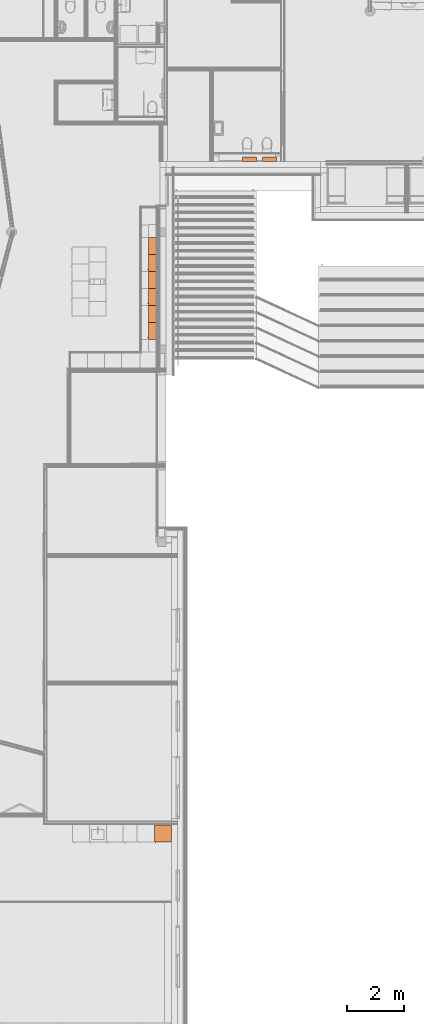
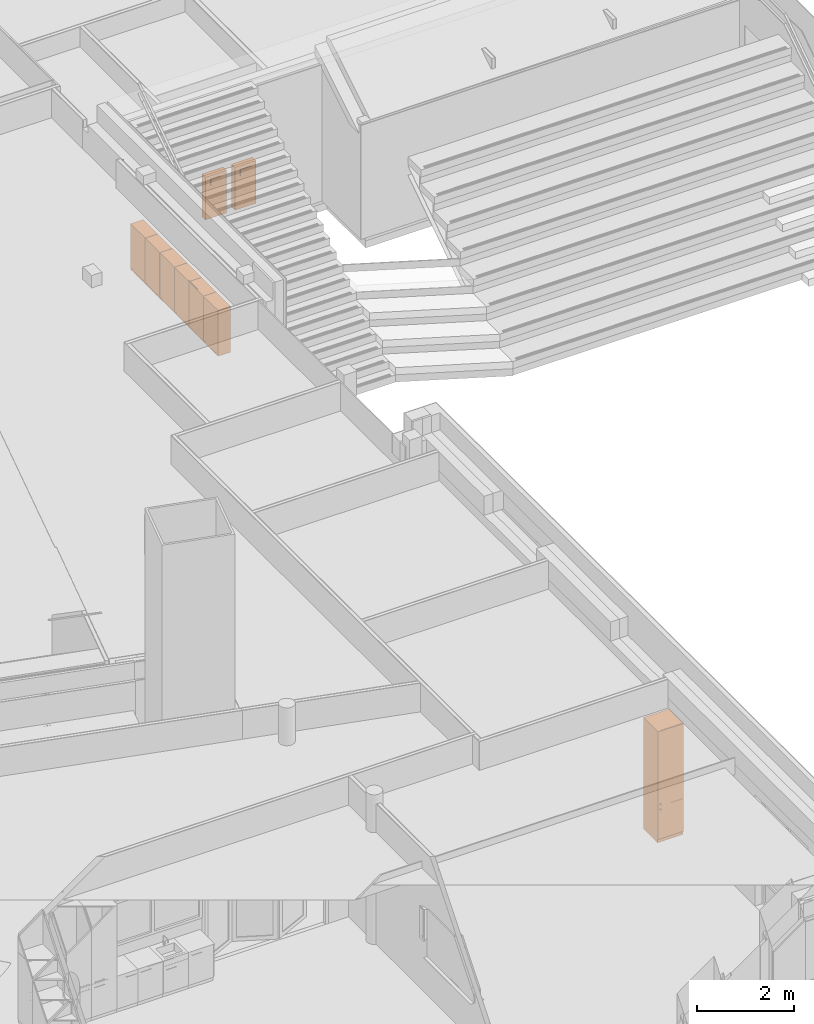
# One storey, part 107 of 167: 9 proxies.
"""IFC2X3 building model written with IfcOpenShell, lengths in millimetres."""

from ifc_helpers import new_model, entity, si_unit, converted_unit, derived_unit, money_unit, direction, frame, origin_with_axes, place, context, subcontext, project, spatial, open_shell, faceted_brep, surface_model, source, transform, mapped, type_object, type_shapes, element, save


model = new_model("IFC2X3")

# Units and contexts
model_context = context("Model", 3, precision=0.01, world=origin_with_axes(), true_north=direction((0.0, 1.0)))
plan_context = context("Plan", 3, precision=0.01, world=origin_with_axes(), true_north=direction((0.0, 1.0)))
body_context = subcontext(model_context, "Body", "Model", "MODEL_VIEW")
ifc_project = project(units=[si_unit("LENGTHUNIT", "METRE", prefix="MILLI"), si_unit("AREAUNIT", "SQUARE_METRE"), si_unit("VOLUMEUNIT", "CUBIC_METRE"), converted_unit("PLANEANGLEUNIT", "DEGREE", entity("IfcPlaneAngleMeasure", 0.0174532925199), si_unit("PLANEANGLEUNIT", "RADIAN"), dimensions=[0, 0, 0, 0, 0, 0, 0]), si_unit("SOLIDANGLEUNIT", "STERADIAN"), money_unit("EUR"), converted_unit("TIMEUNIT", "Year", entity("IfcTimeMeasure", 31556926.0), si_unit("TIMEUNIT", "SECOND"), dimensions=[0, 0, 1, 0, 0, 0, 0]), si_unit("MASSUNIT", "GRAM", prefix="KILO"), si_unit("THERMODYNAMICTEMPERATUREUNIT", "DEGREE_CELSIUS"), si_unit("LUMINOUSINTENSITYUNIT", "LUMEN"), si_unit("ENERGYUNIT", "JOULE", prefix="MEGA"), derived_unit("THERMALCONDUCTANCEUNIT", [(si_unit("POWERUNIT", "WATT"), 1), (si_unit("LENGTHUNIT", "METRE"), -1), (si_unit("THERMODYNAMICTEMPERATUREUNIT", "KELVIN"), -1)]), derived_unit("SPECIFICHEATCAPACITYUNIT", [(si_unit("ENERGYUNIT", "JOULE"), 1), (si_unit("MASSUNIT", "GRAM", prefix="KILO"), -1), (si_unit("THERMODYNAMICTEMPERATUREUNIT", "KELVIN"), -1)]), derived_unit("MASSDENSITYUNIT", [(si_unit("MASSUNIT", "GRAM", prefix="KILO"), 1), (si_unit("VOLUMEUNIT", "CUBIC_METRE"), -1)])], contexts=[model_context, plan_context])

# Site, building, storey
site_placement = place(None, origin_with_axes())
site = spatial("IfcSite", under=ifc_project, at=site_placement, Name="Site", CompositionType="ELEMENT")
building_placement = place(site_placement, origin_with_axes())
building = spatial("IfcBuilding", under=site, at=building_placement, Name="Naam gebouw", CompositionType="ELEMENT")
storey_placement = place(building_placement, origin_with_axes())
storey = spatial("IfcBuildingStorey", under=building, at=storey_placement, Name="Begane grond", CompositionType="ELEMENT", Elevation=0.0)

# Proxies
building_element_proxy_type_1 = type_object("IfcBuildingElementProxyType", Name="Kast hoog 1D 24", PredefinedType="NOTDEFINED")
shared_shape_1 = source(origin_with_axes(), body_context, "Body", "Brep", [
    faceted_brep([(-20.0, 20.0, 910.0), (-20.0, 20.0, 930.0), (-580.0, 20.0, 930.0), (-580.0, 20.0, 910.0), (-20.0, 580.0, 910.0), (-20.0, 580.0, 930.0), (-580.0, 580.0, 930.0), (-580.0, 580.0, 910.0)], [[[0, 1, 2, 3]], [[4, 5, 1, 0]], [[1, 5, 6, 2]], [[3, 2, 6, 7]], [[0, 3, 7, 4]], [[7, 6, 5, 4]]]),
    faceted_brep([(0.0, 20.0, 0.0), (0.0, 20.0, 90.0), (-600.0, 20.0, 90.0), (-600.0, 20.0, 0.0), (0.0, 600.0, 0.0), (0.0, 600.0, 90.0), (-600.0, 600.0, 90.0), (-600.0, 600.0, 0.0)], [[[0, 1, 2, 3]], [[4, 5, 1, 0]], [[1, 5, 6, 2]], [[3, 2, 6, 7]], [[0, 3, 7, 4]], [[7, 6, 5, 4]]]),
    faceted_brep([(0.0, 20.0, 2780.0), (0.0, 20.0, 2800.0), (-20.0, 20.0, 2800.0), (-20.0, 20.0, 2780.0), (0.0, 600.0, 2780.0), (0.0, 600.0, 2800.0), (-20.0, 600.0, 2800.0), (-580.0, 600.0, 2800.0), (-600.0, 600.0, 2800.0), (-600.0, 20.0, 2800.0), (-580.0, 20.0, 2800.0), (-580.0, 20.0, 2780.0), (-600.0, 20.0, 2780.0), (-600.0, 600.0, 2780.0), (-580.0, 600.0, 2780.0), (-20.0, 600.0, 2780.0)], [[[0, 1, 2, 3]], [[4, 5, 1, 0]], [[1, 5, 6, 7, 8, 9, 10, 2]], [[3, 2, 10, 11]], [[0, 3, 11, 12, 13, 14, 15, 4]], [[15, 6, 5, 4]], [[14, 7, 6, 15]], [[13, 8, 7, 14]], [[12, 9, 8, 13]], [[11, 10, 9, 12]]]),
    faceted_brep([(0.0, 20.0, 90.0), (0.0, 20.0, 110.0), (-20.0, 20.0, 110.0), (-20.0, 20.0, 90.0), (0.0, 600.0, 90.0), (0.0, 600.0, 110.0), (-20.0, 600.0, 110.0), (-580.0, 600.0, 110.0), (-600.0, 600.0, 110.0), (-600.0, 20.0, 110.0), (-580.0, 20.0, 110.0), (-580.0, 20.0, 90.0), (-600.0, 20.0, 90.0), (-600.0, 600.0, 90.0), (-580.0, 600.0, 90.0), (-20.0, 600.0, 90.0)], [[[0, 1, 2, 3]], [[4, 5, 1, 0]], [[1, 5, 6, 7, 8, 9, 10, 2]], [[3, 2, 10, 11]], [[0, 3, 11, 12, 13, 14, 15, 4]], [[15, 6, 5, 4]], [[14, 7, 6, 15]], [[13, 8, 7, 14]], [[12, 9, 8, 13]], [[11, 10, 9, 12]]]),
    faceted_brep([(0.0, 20.0, 110.0), (0.0, 20.0, 2780.0), (-20.0, 20.0, 2780.0), (-20.0, 20.0, 110.0), (0.0, 600.0, 110.0), (0.0, 600.0, 2780.0), (-600.0, 600.0, 2780.0), (-600.0, 20.0, 2780.0), (-580.0, 20.0, 2780.0), (-580.0, 580.0, 2780.0), (-20.0, 580.0, 2780.0), (-20.0, 580.0, 110.0), (-580.0, 580.0, 110.0), (-580.0, 20.0, 110.0), (-600.0, 20.0, 110.0), (-600.0, 600.0, 110.0)], [[[0, 1, 2, 3]], [[4, 5, 1, 0]], [[1, 5, 6, 7, 8, 9, 10, 2]], [[3, 2, 10, 11]], [[0, 3, 11, 12, 13, 14, 15, 4]], [[15, 6, 5, 4]], [[14, 7, 6, 15]], [[13, 8, 7, 14]], [[12, 9, 8, 13]], [[11, 10, 9, 12]]]),
    faceted_brep([(-580.0, 20.0, 353.333333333), (-580.0, 20.0, 373.333333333), (-580.0, 580.0, 373.333333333), (-580.0, 580.0, 353.333333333), (-20.0, 20.0, 353.333333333), (-20.0, 20.0, 373.333333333), (-20.0, 580.0, 373.333333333), (-20.0, 580.0, 353.333333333)], [[[0, 1, 2, 3]], [[4, 5, 1, 0]], [[1, 5, 6, 2]], [[3, 2, 6, 7]], [[0, 3, 7, 4]], [[7, 6, 5, 4]]]),
    faceted_brep([(-580.0, 20.0, 636.666666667), (-580.0, 20.0, 656.666666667), (-580.0, 580.0, 656.666666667), (-580.0, 580.0, 636.666666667), (-20.0, 20.0, 636.666666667), (-20.0, 20.0, 656.666666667), (-20.0, 580.0, 656.666666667), (-20.0, 580.0, 636.666666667)], [[[0, 1, 2, 3]], [[4, 5, 1, 0]], [[1, 5, 6, 2]], [[3, 2, 6, 7]], [[0, 3, 7, 4]], [[7, 6, 5, 4]]]),
    faceted_brep([(-1.5, 20.0, 91.5), (-1.5, 0.0, 91.5), (-598.5, 0.0, 91.5), (-598.5, 20.0, 91.5), (-1.5, 20.0, 918.5), (-1.5, 0.0, 918.5), (-598.5, 0.0, 918.5), (-598.5, 20.0, 918.5)], [[[0, 1, 2, 3]], [[4, 5, 1, 0]], [[1, 5, 6, 2]], [[3, 2, 6, 7]], [[0, 3, 7, 4]], [[7, 6, 5, 4]]]),
    faceted_brep([(-560.091109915, 0.0, 838.394171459), (-560.5, 0.0, 841.5), (-560.091109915, 0.0, 844.605828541), (-558.892304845, 0.0, 847.5), (-556.985281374, 0.0, 849.985281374), (-554.5, 0.0, 851.892304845), (-551.605828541, 0.0, 853.091109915), (-548.5, 0.0, 853.5), (-545.394171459, 0.0, 853.091109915), (-542.5, 0.0, 851.892304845), (-540.014718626, 0.0, 849.985281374), (-538.107695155, 0.0, 847.5), (-536.908890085, 0.0, 844.605828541), (-536.5, 0.0, 841.5), (-536.908890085, 0.0, 838.394171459), (-538.107695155, 0.0, 835.5), (-540.014718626, 0.0, 833.014718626), (-542.5, 0.0, 831.107695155), (-545.394171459, 0.0, 829.908890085), (-548.5, 0.0, 829.5), (-551.605828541, 0.0, 829.908890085), (-554.5, 0.0, 831.107695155), (-556.985281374, 0.0, 833.014718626), (-558.892304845, 0.0, 835.5), (-560.091109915, -25.0, 838.394171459), (-560.5, -25.0, 841.5), (-560.091109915, -25.0, 844.605828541), (-558.892304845, -25.0, 847.5), (-556.985281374, -25.0, 849.985281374), (-554.5, -25.0, 851.892304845), (-551.605828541, -25.0, 853.091109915), (-548.5, -25.0, 853.5), (-545.394171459, -25.0, 853.091109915), (-542.5, -25.0, 851.892304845), (-540.014718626, -25.0, 849.985281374), (-538.107695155, -25.0, 847.5), (-536.908890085, -25.0, 844.605828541), (-536.5, -25.0, 841.5), (-536.908890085, -25.0, 838.394171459), (-538.107695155, -25.0, 835.5), (-540.014718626, -25.0, 833.014718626), (-542.5, -25.0, 831.107695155), (-545.394171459, -25.0, 829.908890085), (-548.5, -25.0, 829.5), (-551.605828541, -25.0, 829.908890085), (-554.5, -25.0, 831.107695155), (-556.985281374, -25.0, 833.014718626), (-558.892304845, -25.0, 835.5)], [[[0, 1, 2, 3, 4, 5, 6, 7, 8, 9, 10, 11, 12, 13, 14, 15, 16, 17, 18, 19, 20, 21, 22, 23]], [[0, 24, 25, 1]], [[1, 25, 26, 2]], [[2, 26, 27, 3]], [[3, 27, 28, 4]], [[4, 28, 29, 5]], [[5, 29, 30, 6]], [[6, 30, 31, 7]], [[7, 31, 32, 8]], [[8, 32, 33, 9]], [[9, 33, 34, 10]], [[10, 34, 35, 11]], [[11, 35, 36, 12]], [[12, 36, 37, 13]], [[13, 37, 38, 14]], [[14, 38, 39, 15]], [[15, 39, 40, 16]], [[16, 40, 41, 17]], [[17, 41, 42, 18]], [[18, 42, 43, 19]], [[19, 43, 44, 20]], [[20, 44, 45, 21]], [[21, 45, 46, 22]], [[22, 46, 47, 23]], [[23, 47, 24, 0]], [[24, 47, 46, 45, 44, 43, 42, 41, 40, 39, 38, 37, 36, 35, 34, 33, 32, 31, 30, 29, 28, 27, 26, 25]]]),
    faceted_brep([(-1.5, 20.0, 921.5), (-1.5, 0.0, 921.5), (-598.5, 0.0, 921.5), (-598.5, 20.0, 921.5), (-1.5, 20.0, 2798.5), (-1.5, 0.0, 2798.5), (-598.5, 0.0, 2798.5), (-598.5, 20.0, 2798.5)], [[[0, 1, 2, 3]], [[4, 5, 1, 0]], [[1, 5, 6, 2]], [[3, 2, 6, 7]], [[0, 3, 7, 4]], [[7, 6, 5, 4]]]),
    faceted_brep([(-560.091109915, 0.0, 968.394171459), (-560.5, 0.0, 971.5), (-560.091109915, 0.0, 974.605828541), (-558.892304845, 0.0, 977.5), (-556.985281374, 0.0, 979.985281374), (-554.5, 0.0, 981.892304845), (-551.605828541, 0.0, 983.091109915), (-548.5, 0.0, 983.5), (-545.394171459, 0.0, 983.091109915), (-542.5, 0.0, 981.892304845), (-540.014718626, 0.0, 979.985281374), (-538.107695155, 0.0, 977.5), (-536.908890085, 0.0, 974.605828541), (-536.5, 0.0, 971.5), (-536.908890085, 0.0, 968.394171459), (-538.107695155, 0.0, 965.5), (-540.014718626, 0.0, 963.014718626), (-542.5, 0.0, 961.107695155), (-545.394171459, 0.0, 959.908890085), (-548.5, 0.0, 959.5), (-551.605828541, 0.0, 959.908890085), (-554.5, 0.0, 961.107695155), (-556.985281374, 0.0, 963.014718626), (-558.892304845, 0.0, 965.5), (-560.091109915, -25.0, 968.394171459), (-560.5, -25.0, 971.5), (-560.091109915, -25.0, 974.605828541), (-558.892304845, -25.0, 977.5), (-556.985281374, -25.0, 979.985281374), (-554.5, -25.0, 981.892304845), (-551.605828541, -25.0, 983.091109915), (-548.5, -25.0, 983.5), (-545.394171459, -25.0, 983.091109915), (-542.5, -25.0, 981.892304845), (-540.014718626, -25.0, 979.985281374), (-538.107695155, -25.0, 977.5), (-536.908890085, -25.0, 974.605828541), (-536.5, -25.0, 971.5), (-536.908890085, -25.0, 968.394171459), (-538.107695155, -25.0, 965.5), (-540.014718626, -25.0, 963.014718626), (-542.5, -25.0, 961.107695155), (-545.394171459, -25.0, 959.908890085), (-548.5, -25.0, 959.5), (-551.605828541, -25.0, 959.908890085), (-554.5, -25.0, 961.107695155), (-556.985281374, -25.0, 963.014718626), (-558.892304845, -25.0, 965.5)], [[[0, 1, 2, 3, 4, 5, 6, 7, 8, 9, 10, 11, 12, 13, 14, 15, 16, 17, 18, 19, 20, 21, 22, 23]], [[0, 24, 25, 1]], [[1, 25, 26, 2]], [[2, 26, 27, 3]], [[3, 27, 28, 4]], [[4, 28, 29, 5]], [[5, 29, 30, 6]], [[6, 30, 31, 7]], [[7, 31, 32, 8]], [[8, 32, 33, 9]], [[9, 33, 34, 10]], [[10, 34, 35, 11]], [[11, 35, 36, 12]], [[12, 36, 37, 13]], [[13, 37, 38, 14]], [[14, 38, 39, 15]], [[15, 39, 40, 16]], [[16, 40, 41, 17]], [[17, 41, 42, 18]], [[18, 42, 43, 19]], [[19, 43, 44, 20]], [[20, 44, 45, 21]], [[21, 45, 46, 22]], [[22, 46, 47, 23]], [[23, 47, 24, 0]], [[24, 47, 46, 45, 44, 43, 42, 41, 40, 39, 38, 37, 36, 35, 34, 33, 32, 31, 30, 29, 28, 27, 26, 25]]]),
])
type_shapes(building_element_proxy_type_1, [shared_shape_1])
proxy_placement = place(storey_placement, frame((28986.0, 7273.34783859, 0.0), z_axis=(0.0, 0.0, 1.0), x_axis=(1.0, 0.0, 0.0)))
element("IfcBuildingElementProxy", 1, at=proxy_placement, inside=storey, type_object=building_element_proxy_type_1, Name="__Object-x", context=body_context, shape_type="MappedRepresentation", body=[
    mapped(shared_shape_1, transform((0.0, 0.0, 0.0))),
])
building_element_proxy_type_2 = type_object("IfcBuildingElementProxyType", Name="Inbouwreservoir 24 KM", PredefinedType="NOTDEFINED")
shared_shape_2 = source(origin_with_axes(), body_context, "Body", "SurfaceModel", [
    faceted_brep([(0.0, 0.0, 0.0), (500.0, 0.0, 0.0), (500.0, 0.0, 1070.0), (0.0, 0.0, 1070.0), (0.0, 145.00000711, 0.0), (500.0, 145.00000711, 0.0), (500.0, 145.00000711, 1070.0), (0.0, 145.00000711, 1070.0)], [[[0, 1, 2, 3]], [[0, 4, 5, 1]], [[1, 5, 6, 2]], [[3, 2, 6, 7]], [[4, 0, 3, 7]], [[5, 4, 7, 6]]]),
    surface_model("IfcShellBasedSurfaceModel", [(1.0, 0.0, 0.0), (499.0, 0.0, 0.0), (499.0, 145.00000711, 1070.0), (1.0, 145.00000711, 1070.0)], [open_shell([[[0, 1, 2, 3]]])]),
    surface_model("IfcShellBasedSurfaceModel", [(1.0, 0.0, 1070.0), (499.0, 0.0, 1070.0), (499.0, 145.00000711, 0.0), (1.0, 145.00000711, 0.0)], [open_shell([[[0, 1, 2, 3]]])]),
    faceted_brep([(375.0, -10.0, 820.0), (125.0, -10.0, 820.0), (125.0, 0.0, 820.0), (375.0, 0.0, 820.0), (375.0, -10.0, 980.0), (125.0, -10.0, 980.0), (125.0, 0.0, 980.0), (375.0, 0.0, 980.0)], [[[0, 1, 2, 3]], [[1, 0, 4, 5]], [[2, 1, 5, 6]], [[3, 2, 6, 7]], [[0, 3, 7, 4]], [[5, 4, 7, 6]]]),
    surface_model("IfcShellBasedSurfaceModel", [(325.0, 0.0, 850.0), (175.0, 0.0, 850.0), (175.0, 0.0, 950.0), (325.0, 0.0, 950.0)], [open_shell([[[0, 1, 2, 3]]])]),
    surface_model("IfcShellBasedSurfaceModel", [(175.0, -10.0, 820.0), (325.0, -10.0, 820.0), (325.0, -10.0, 855.0), (175.0, -10.0, 855.0)], [open_shell([[[0, 1, 2, 3]]])]),
    surface_model("IfcShellBasedSurfaceModel", [(175.0, -10.0, 855.0), (265.0, -10.0, 855.0), (265.0, -10.0, 945.0), (175.0, -10.0, 945.0)], [open_shell([[[0, 1, 2, 3]]])]),
    surface_model("IfcShellBasedSurfaceModel", [(265.0, -10.0, 855.0), (325.0, -10.0, 855.0), (325.0, -10.0, 945.0), (265.0, -10.0, 945.0)], [open_shell([[[0, 1, 2, 3]]])]),
])
type_shapes(building_element_proxy_type_2, [shared_shape_2])
for number, where, z_axis, x_axis in (
    (2, (31501.6857584, 31300.3129265, 0.0), (0.0, 0.0, 1.0), (0.999999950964, -0.000313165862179, 0.0)),
    (3, (32202.4365325, 31300.1563393, 0.0), (0.0, 0.0, 1.0), (0.999999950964, -0.000313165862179, 0.0)),
):
    element("IfcBuildingElementProxy", number, at=place(storey_placement, frame(where, z_axis=z_axis, x_axis=x_axis)), inside=storey, type_object=building_element_proxy_type_2, Name="__Object-x", context=body_context, shape_type="MappedRepresentation", body=[
        mapped(shared_shape_2, transform((0.0, 0.0, 0.0))),
    ])
building_element_proxy_type_3 = type_object("IfcBuildingElementProxyType", Name="Kast wand 1D 24", PredefinedType="NOTDEFINED")
shared_shape_3 = source(origin_with_axes(), body_context, "Body", "SurfaceModel", [
    faceted_brep([(0.0, 20.0, 2630.0), (20.0, 20.0, 2630.0), (20.0, 20.0, 2650.0), (0.0, 20.0, 2650.0), (0.0, 300.0, 2630.0), (20.0, 300.0, 2630.0), (580.0, 300.0, 2630.0), (600.0, 300.0, 2630.0), (600.0, 20.0, 2630.0), (580.0, 20.0, 2630.0), (580.0, 20.0, 2650.0), (600.0, 20.0, 2650.0), (600.0, 300.0, 2650.0), (580.0, 300.0, 2650.0), (20.0, 300.0, 2650.0), (0.0, 300.0, 2650.0)], [[[0, 1, 2, 3]], [[0, 4, 5, 6, 7, 8, 9, 1]], [[1, 9, 10, 2]], [[3, 2, 10, 11, 12, 13, 14, 15]], [[4, 0, 3, 15]], [[5, 4, 15, 14]], [[6, 5, 14, 13]], [[7, 6, 13, 12]], [[8, 7, 12, 11]], [[9, 8, 11, 10]]]),
    faceted_brep([(0.0, 20.0, 1500.0), (20.0, 20.0, 1500.0), (20.0, 20.0, 1520.0), (0.0, 20.0, 1520.0), (0.0, 300.0, 1500.0), (20.0, 300.0, 1500.0), (580.0, 300.0, 1500.0), (600.0, 300.0, 1500.0), (600.0, 20.0, 1500.0), (580.0, 20.0, 1500.0), (580.0, 20.0, 1520.0), (600.0, 20.0, 1520.0), (600.0, 300.0, 1520.0), (580.0, 300.0, 1520.0), (20.0, 300.0, 1520.0), (0.0, 300.0, 1520.0)], [[[0, 1, 2, 3]], [[0, 4, 5, 6, 7, 8, 9, 1]], [[1, 9, 10, 2]], [[3, 2, 10, 11, 12, 13, 14, 15]], [[4, 0, 3, 15]], [[5, 4, 15, 14]], [[6, 5, 14, 13]], [[7, 6, 13, 12]], [[8, 7, 12, 11]], [[9, 8, 11, 10]]]),
    faceted_brep([(0.0, 20.0, 1520.0), (20.0, 20.0, 1520.0), (20.0, 20.0, 2630.0), (0.0, 20.0, 2630.0), (0.0, 300.0, 1520.0), (600.0, 300.0, 1520.0), (600.0, 20.0, 1520.0), (580.0, 20.0, 1520.0), (580.0, 280.0, 1520.0), (20.0, 280.0, 1520.0), (20.0, 280.0, 2630.0), (580.0, 280.0, 2630.0), (580.0, 20.0, 2630.0), (600.0, 20.0, 2630.0), (600.0, 300.0, 2630.0), (0.0, 300.0, 2630.0)], [[[0, 1, 2, 3]], [[0, 4, 5, 6, 7, 8, 9, 1]], [[1, 9, 10, 2]], [[3, 2, 10, 11, 12, 13, 14, 15]], [[4, 0, 3, 15]], [[5, 4, 15, 14]], [[6, 5, 14, 13]], [[7, 6, 13, 12]], [[8, 7, 12, 11]], [[9, 8, 11, 10]]]),
    faceted_brep([(580.0, 20.0, 1863.33333333), (580.0, 280.0, 1863.33333333), (580.0, 280.0, 1883.33333333), (580.0, 20.0, 1883.33333333), (20.0, 20.0, 1863.33333333), (20.0, 280.0, 1863.33333333), (20.0, 280.0, 1883.33333333), (20.0, 20.0, 1883.33333333)], [[[0, 1, 2, 3]], [[0, 4, 5, 1]], [[1, 5, 6, 2]], [[3, 2, 6, 7]], [[4, 0, 3, 7]], [[5, 4, 7, 6]]]),
    faceted_brep([(580.0, 20.0, 2246.66666667), (580.0, 280.0, 2246.66666667), (580.0, 280.0, 2266.66666667), (580.0, 20.0, 2266.66666667), (20.0, 20.0, 2246.66666667), (20.0, 280.0, 2246.66666667), (20.0, 280.0, 2266.66666667), (20.0, 20.0, 2266.66666667)], [[[0, 1, 2, 3]], [[0, 4, 5, 1]], [[1, 5, 6, 2]], [[3, 2, 6, 7]], [[4, 0, 3, 7]], [[5, 4, 7, 6]]]),
    faceted_brep([(1.5, 20.0, 1501.5), (598.5, 20.0, 1501.5), (598.5, 0.0, 1501.5), (1.5, 0.0, 1501.5), (1.5, 20.0, 2648.5), (598.5, 20.0, 2648.5), (598.5, 0.0, 2648.5), (1.5, 0.0, 2648.5)], [[[0, 1, 2, 3]], [[0, 4, 5, 1]], [[1, 5, 6, 2]], [[3, 2, 6, 7]], [[4, 0, 3, 7]], [[5, 4, 7, 6]]]),
    faceted_brep([(48.5, -28.1480502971, 1548.7283614), (48.5, -29.1213203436, 1549.37867966), (48.5, -29.7716385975, 1550.3519497), (48.5, -30.0, 1551.5), (48.5, -29.7716385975, 1552.6480503), (48.5, -29.1213203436, 1553.62132034), (48.5, -28.1480502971, 1554.2716386), (48.5, -27.0, 1554.5), (48.5, -25.8519497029, 1554.2716386), (48.5, -24.8786796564, 1553.62132034), (48.5, -24.2283614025, 1552.6480503), (48.5, -24.0, 1551.5), (48.5, -24.2283614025, 1550.3519497), (48.5, -24.8786796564, 1549.37867966), (48.5, -25.8519497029, 1548.7283614), (48.5, -27.0, 1548.5), (548.5, -28.1480502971, 1548.7283614), (548.5, -29.1213203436, 1549.37867966), (548.5, -29.7716385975, 1550.3519497), (548.5, -30.0, 1551.5), (548.5, -29.7716385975, 1552.6480503), (548.5, -29.1213203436, 1553.62132034), (548.5, -28.1480502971, 1554.2716386), (548.5, -27.0, 1554.5), (548.5, -25.8519497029, 1554.2716386), (548.5, -24.8786796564, 1553.62132034), (548.5, -24.2283614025, 1552.6480503), (548.5, -24.0, 1551.5), (548.5, -24.2283614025, 1550.3519497), (548.5, -24.8786796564, 1549.37867966), (548.5, -25.8519497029, 1548.7283614), (548.5, -27.0, 1548.5)], [[[0, 1, 2, 3, 4, 5, 6, 7, 8, 9, 10, 11, 12, 13, 14, 15]], [[1, 0, 16, 17]], [[2, 1, 17, 18]], [[3, 2, 18, 19]], [[4, 3, 19, 20]], [[5, 4, 20, 21]], [[6, 5, 21, 22]], [[7, 6, 22, 23]], [[8, 7, 23, 24]], [[9, 8, 24, 25]], [[10, 9, 25, 26]], [[11, 10, 26, 27]], [[12, 11, 27, 28]], [[13, 12, 28, 29]], [[14, 13, 29, 30]], [[15, 14, 30, 31]], [[0, 15, 31, 16]], [[16, 31, 30, 29, 28, 27, 26, 25, 24, 23, 22, 21, 20, 19, 18, 17]]]),
    surface_model("IfcShellBasedSurfaceModel", [(71.1903011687, -24.156637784, 1550.54329142), (71.0, -24.0, 1551.5), (71.0, 0.0, 1551.5), (71.1903011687, 0.0, 1550.54329142), (71.1903011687, -24.156637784, 1552.45670858), (71.1903011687, 0.0, 1552.45670858), (71.732233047, 0.0, 1553.26776695), (72.5432914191, 0.0, 1553.80969883), (73.5, 0.0, 1554.0), (74.4567085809, 0.0, 1553.80969883), (75.267766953, 0.0, 1553.26776695), (75.8096988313, 0.0, 1552.45670858), (76.0, 0.0, 1551.5), (75.8096988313, 0.0, 1550.54329142), (75.267766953, 0.0, 1549.73223305), (74.4567085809, 0.0, 1549.19030117), (73.5, 0.0, 1549.0), (72.5432914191, 0.0, 1549.19030117), (71.732233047, 0.0, 1549.73223305), (71.732233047, -24.5761600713, 1549.73223305), (71.732233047, -24.5761600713, 1553.26776695), (72.5432914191, -25.0855049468, 1553.80969883), (73.5, -25.3416876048, 1554.0), (74.4567085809, -25.0855049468, 1553.80969883), (75.267766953, -24.5761600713, 1553.26776695), (75.8096988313, -24.156637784, 1552.45670858), (76.0, -24.0, 1551.5), (75.8096988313, -24.156637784, 1550.54329142), (75.267766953, -24.5761600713, 1549.73223305), (74.4567085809, -25.0855049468, 1549.19030117), (73.5, -25.3416876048, 1549.0), (72.5432914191, -25.0855049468, 1549.19030117)], [open_shell([[[0, 1, 2, 3]], [[1, 4, 5, 2]], [[3, 2, 5, 6, 7, 8, 9, 10, 11, 12, 13, 14, 15, 16, 17, 18]], [[19, 0, 3, 18]], [[4, 20, 6, 5]], [[20, 21, 7, 6]], [[21, 22, 8, 7]], [[22, 23, 9, 8]], [[23, 24, 10, 9]], [[24, 25, 11, 10]], [[25, 26, 12, 11]], [[26, 27, 13, 12]], [[27, 28, 14, 13]], [[28, 29, 15, 14]], [[29, 30, 16, 15]], [[30, 31, 17, 16]], [[31, 19, 18, 17]]])]),
    surface_model("IfcShellBasedSurfaceModel", [(521.190301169, -24.156637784, 1550.54329142), (521.0, -24.0, 1551.5), (521.0, 0.0, 1551.5), (521.190301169, 0.0, 1550.54329142), (521.190301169, -24.156637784, 1552.45670858), (521.190301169, 0.0, 1552.45670858), (521.732233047, 0.0, 1553.26776695), (522.543291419, 0.0, 1553.80969883), (523.5, 0.0, 1554.0), (524.456708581, 0.0, 1553.80969883), (525.267766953, 0.0, 1553.26776695), (525.809698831, 0.0, 1552.45670858), (526.0, 0.0, 1551.5), (525.809698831, 0.0, 1550.54329142), (525.267766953, 0.0, 1549.73223305), (524.456708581, 0.0, 1549.19030117), (523.5, 0.0, 1549.0), (522.543291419, 0.0, 1549.19030117), (521.732233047, 0.0, 1549.73223305), (521.732233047, -24.5761600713, 1549.73223305), (521.732233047, -24.5761600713, 1553.26776695), (522.543291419, -25.0855049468, 1553.80969883), (523.5, -25.3416876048, 1554.0), (524.456708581, -25.0855049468, 1553.80969883), (525.267766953, -24.5761600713, 1553.26776695), (525.809698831, -24.156637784, 1552.45670858), (526.0, -24.0, 1551.5), (525.809698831, -24.156637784, 1550.54329142), (525.267766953, -24.5761600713, 1549.73223305), (524.456708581, -25.0855049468, 1549.19030117), (523.5, -25.3416876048, 1549.0), (522.543291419, -25.0855049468, 1549.19030117)], [open_shell([[[0, 1, 2, 3]], [[1, 4, 5, 2]], [[3, 2, 5, 6, 7, 8, 9, 10, 11, 12, 13, 14, 15, 16, 17, 18]], [[19, 0, 3, 18]], [[4, 20, 6, 5]], [[20, 21, 7, 6]], [[21, 22, 8, 7]], [[22, 23, 9, 8]], [[23, 24, 10, 9]], [[24, 25, 11, 10]], [[25, 26, 12, 11]], [[26, 27, 13, 12]], [[27, 28, 14, 13]], [[28, 29, 15, 14]], [[29, 30, 16, 15]], [[30, 31, 17, 16]], [[31, 19, 18, 17]]])]),
])
for number, where, z_axis, x_axis in (
    (4, (28175.0, 26216.7322881, 50.0), (0.0, 0.0, 1.0), (0.0, -1.0, 0.0)),
    (5, (28175.0, 27416.7322881, 50.0), (0.0, 0.0, 1.0), (0.0, -1.0, 0.0)),
    (6, (28175.0, 28616.7322881, 50.0), (0.0, 0.0, 1.0), (0.0, -1.0, 0.0)),
):
    element("IfcBuildingElementProxy", number, at=place(storey_placement, frame(where, z_axis=z_axis, x_axis=x_axis)), inside=storey, type_object=building_element_proxy_type_3, Name="__Object-x", context=body_context, shape_type="MappedRepresentation", body=[
        mapped(shared_shape_3, transform((0.0, 0.0, 0.0))),
    ])
shared_shape_4 = source(origin_with_axes(), body_context, "Body", "SurfaceModel", [
    faceted_brep([(0.0, 20.0, 2630.0), (0.0, 20.0, 2650.0), (-20.0, 20.0, 2650.0), (-20.0, 20.0, 2630.0), (0.0, 300.0, 2630.0), (0.0, 300.0, 2650.0), (-20.0, 300.0, 2650.0), (-580.0, 300.0, 2650.0), (-600.0, 300.0, 2650.0), (-600.0, 20.0, 2650.0), (-580.0, 20.0, 2650.0), (-580.0, 20.0, 2630.0), (-600.0, 20.0, 2630.0), (-600.0, 300.0, 2630.0), (-580.0, 300.0, 2630.0), (-20.0, 300.0, 2630.0)], [[[0, 1, 2, 3]], [[4, 5, 1, 0]], [[1, 5, 6, 7, 8, 9, 10, 2]], [[3, 2, 10, 11]], [[0, 3, 11, 12, 13, 14, 15, 4]], [[15, 6, 5, 4]], [[14, 7, 6, 15]], [[13, 8, 7, 14]], [[12, 9, 8, 13]], [[11, 10, 9, 12]]]),
    faceted_brep([(0.0, 20.0, 1500.0), (0.0, 20.0, 1520.0), (-20.0, 20.0, 1520.0), (-20.0, 20.0, 1500.0), (0.0, 300.0, 1500.0), (0.0, 300.0, 1520.0), (-20.0, 300.0, 1520.0), (-580.0, 300.0, 1520.0), (-600.0, 300.0, 1520.0), (-600.0, 20.0, 1520.0), (-580.0, 20.0, 1520.0), (-580.0, 20.0, 1500.0), (-600.0, 20.0, 1500.0), (-600.0, 300.0, 1500.0), (-580.0, 300.0, 1500.0), (-20.0, 300.0, 1500.0)], [[[0, 1, 2, 3]], [[4, 5, 1, 0]], [[1, 5, 6, 7, 8, 9, 10, 2]], [[3, 2, 10, 11]], [[0, 3, 11, 12, 13, 14, 15, 4]], [[15, 6, 5, 4]], [[14, 7, 6, 15]], [[13, 8, 7, 14]], [[12, 9, 8, 13]], [[11, 10, 9, 12]]]),
    faceted_brep([(0.0, 20.0, 1520.0), (0.0, 20.0, 2630.0), (-20.0, 20.0, 2630.0), (-20.0, 20.0, 1520.0), (0.0, 300.0, 1520.0), (0.0, 300.0, 2630.0), (-600.0, 300.0, 2630.0), (-600.0, 20.0, 2630.0), (-580.0, 20.0, 2630.0), (-580.0, 280.0, 2630.0), (-20.0, 280.0, 2630.0), (-20.0, 280.0, 1520.0), (-580.0, 280.0, 1520.0), (-580.0, 20.0, 1520.0), (-600.0, 20.0, 1520.0), (-600.0, 300.0, 1520.0)], [[[0, 1, 2, 3]], [[4, 5, 1, 0]], [[1, 5, 6, 7, 8, 9, 10, 2]], [[3, 2, 10, 11]], [[0, 3, 11, 12, 13, 14, 15, 4]], [[15, 6, 5, 4]], [[14, 7, 6, 15]], [[13, 8, 7, 14]], [[12, 9, 8, 13]], [[11, 10, 9, 12]]]),
    faceted_brep([(-580.0, 20.0, 1863.33333333), (-580.0, 20.0, 1883.33333333), (-580.0, 280.0, 1883.33333333), (-580.0, 280.0, 1863.33333333), (-20.0, 20.0, 1863.33333333), (-20.0, 20.0, 1883.33333333), (-20.0, 280.0, 1883.33333333), (-20.0, 280.0, 1863.33333333)], [[[0, 1, 2, 3]], [[4, 5, 1, 0]], [[1, 5, 6, 2]], [[3, 2, 6, 7]], [[0, 3, 7, 4]], [[7, 6, 5, 4]]]),
    faceted_brep([(-580.0, 20.0, 2246.66666667), (-580.0, 20.0, 2266.66666667), (-580.0, 280.0, 2266.66666667), (-580.0, 280.0, 2246.66666667), (-20.0, 20.0, 2246.66666667), (-20.0, 20.0, 2266.66666667), (-20.0, 280.0, 2266.66666667), (-20.0, 280.0, 2246.66666667)], [[[0, 1, 2, 3]], [[4, 5, 1, 0]], [[1, 5, 6, 2]], [[3, 2, 6, 7]], [[0, 3, 7, 4]], [[7, 6, 5, 4]]]),
    faceted_brep([(-1.5, 20.0, 1501.5), (-1.5, 0.0, 1501.5), (-598.5, 0.0, 1501.5), (-598.5, 20.0, 1501.5), (-1.5, 20.0, 2648.5), (-1.5, 0.0, 2648.5), (-598.5, 0.0, 2648.5), (-598.5, 20.0, 2648.5)], [[[0, 1, 2, 3]], [[4, 5, 1, 0]], [[1, 5, 6, 2]], [[3, 2, 6, 7]], [[0, 3, 7, 4]], [[7, 6, 5, 4]]]),
    faceted_brep([(-48.5, -28.1480502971, 1548.7283614), (-48.5, -27.0, 1548.5), (-48.5, -25.8519497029, 1548.7283614), (-48.5, -24.8786796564, 1549.37867966), (-48.5, -24.2283614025, 1550.3519497), (-48.5, -24.0, 1551.5), (-48.5, -24.2283614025, 1552.6480503), (-48.5, -24.8786796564, 1553.62132034), (-48.5, -25.8519497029, 1554.2716386), (-48.5, -27.0, 1554.5), (-48.5, -28.1480502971, 1554.2716386), (-48.5, -29.1213203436, 1553.62132034), (-48.5, -29.7716385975, 1552.6480503), (-48.5, -30.0, 1551.5), (-48.5, -29.7716385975, 1550.3519497), (-48.5, -29.1213203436, 1549.37867966), (-548.5, -28.1480502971, 1548.7283614), (-548.5, -27.0, 1548.5), (-548.5, -25.8519497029, 1548.7283614), (-548.5, -24.8786796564, 1549.37867966), (-548.5, -24.2283614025, 1550.3519497), (-548.5, -24.0, 1551.5), (-548.5, -24.2283614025, 1552.6480503), (-548.5, -24.8786796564, 1553.62132034), (-548.5, -25.8519497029, 1554.2716386), (-548.5, -27.0, 1554.5), (-548.5, -28.1480502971, 1554.2716386), (-548.5, -29.1213203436, 1553.62132034), (-548.5, -29.7716385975, 1552.6480503), (-548.5, -30.0, 1551.5), (-548.5, -29.7716385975, 1550.3519497), (-548.5, -29.1213203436, 1549.37867966)], [[[0, 1, 2, 3, 4, 5, 6, 7, 8, 9, 10, 11, 12, 13, 14, 15]], [[0, 16, 17, 1]], [[1, 17, 18, 2]], [[2, 18, 19, 3]], [[3, 19, 20, 4]], [[4, 20, 21, 5]], [[5, 21, 22, 6]], [[6, 22, 23, 7]], [[7, 23, 24, 8]], [[8, 24, 25, 9]], [[9, 25, 26, 10]], [[10, 26, 27, 11]], [[11, 27, 28, 12]], [[12, 28, 29, 13]], [[13, 29, 30, 14]], [[14, 30, 31, 15]], [[15, 31, 16, 0]], [[16, 31, 30, 29, 28, 27, 26, 25, 24, 23, 22, 21, 20, 19, 18, 17]]]),
    surface_model("IfcShellBasedSurfaceModel", [(-71.1903011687, -24.156637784, 1550.54329142), (-71.1903011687, 0.0, 1550.54329142), (-71.0, 0.0, 1551.5), (-71.0, -24.0, 1551.5), (-71.732233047, -24.5761600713, 1549.73223305), (-71.732233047, 0.0, 1549.73223305), (-72.5432914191, 0.0, 1549.19030117), (-73.5, 0.0, 1549.0), (-74.4567085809, 0.0, 1549.19030117), (-75.267766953, 0.0, 1549.73223305), (-75.8096988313, 0.0, 1550.54329142), (-76.0, 0.0, 1551.5), (-75.8096988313, 0.0, 1552.45670858), (-75.267766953, 0.0, 1553.26776695), (-74.4567085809, 0.0, 1553.80969883), (-73.5, 0.0, 1554.0), (-72.5432914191, 0.0, 1553.80969883), (-71.732233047, 0.0, 1553.26776695), (-71.1903011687, 0.0, 1552.45670858), (-71.1903011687, -24.156637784, 1552.45670858), (-72.5432914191, -25.0855049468, 1549.19030117), (-73.5, -25.3416876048, 1549.0), (-74.4567085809, -25.0855049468, 1549.19030117), (-75.267766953, -24.5761600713, 1549.73223305), (-75.8096988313, -24.156637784, 1550.54329142), (-76.0, -24.0, 1551.5), (-75.8096988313, -24.156637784, 1552.45670858), (-75.267766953, -24.5761600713, 1553.26776695), (-74.4567085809, -25.0855049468, 1553.80969883), (-73.5, -25.3416876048, 1554.0), (-72.5432914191, -25.0855049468, 1553.80969883), (-71.732233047, -24.5761600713, 1553.26776695)], [open_shell([[[0, 1, 2, 3]], [[4, 5, 1, 0]], [[1, 5, 6, 7, 8, 9, 10, 11, 12, 13, 14, 15, 16, 17, 18, 2]], [[3, 2, 18, 19]], [[20, 6, 5, 4]], [[21, 7, 6, 20]], [[22, 8, 7, 21]], [[23, 9, 8, 22]], [[24, 10, 9, 23]], [[25, 11, 10, 24]], [[26, 12, 11, 25]], [[27, 13, 12, 26]], [[28, 14, 13, 27]], [[29, 15, 14, 28]], [[30, 16, 15, 29]], [[31, 17, 16, 30]], [[19, 18, 17, 31]]])]),
    surface_model("IfcShellBasedSurfaceModel", [(-521.190301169, -24.156637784, 1550.54329142), (-521.190301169, 0.0, 1550.54329142), (-521.0, 0.0, 1551.5), (-521.0, -24.0, 1551.5), (-521.732233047, -24.5761600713, 1549.73223305), (-521.732233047, 0.0, 1549.73223305), (-522.543291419, 0.0, 1549.19030117), (-523.5, 0.0, 1549.0), (-524.456708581, 0.0, 1549.19030117), (-525.267766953, 0.0, 1549.73223305), (-525.809698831, 0.0, 1550.54329142), (-526.0, 0.0, 1551.5), (-525.809698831, 0.0, 1552.45670858), (-525.267766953, 0.0, 1553.26776695), (-524.456708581, 0.0, 1553.80969883), (-523.5, 0.0, 1554.0), (-522.543291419, 0.0, 1553.80969883), (-521.732233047, 0.0, 1553.26776695), (-521.190301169, 0.0, 1552.45670858), (-521.190301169, -24.156637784, 1552.45670858), (-522.543291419, -25.0855049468, 1549.19030117), (-523.5, -25.3416876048, 1549.0), (-524.456708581, -25.0855049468, 1549.19030117), (-525.267766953, -24.5761600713, 1549.73223305), (-525.809698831, -24.156637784, 1550.54329142), (-526.0, -24.0, 1551.5), (-525.809698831, -24.156637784, 1552.45670858), (-525.267766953, -24.5761600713, 1553.26776695), (-524.456708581, -25.0855049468, 1553.80969883), (-523.5, -25.3416876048, 1554.0), (-522.543291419, -25.0855049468, 1553.80969883), (-521.732233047, -24.5761600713, 1553.26776695)], [open_shell([[[0, 1, 2, 3]], [[4, 5, 1, 0]], [[1, 5, 6, 7, 8, 9, 10, 11, 12, 13, 14, 15, 16, 17, 18, 2]], [[3, 2, 18, 19]], [[20, 6, 5, 4]], [[21, 7, 6, 20]], [[22, 8, 7, 21]], [[23, 9, 8, 22]], [[24, 10, 9, 23]], [[25, 11, 10, 24]], [[26, 12, 11, 25]], [[27, 13, 12, 26]], [[28, 14, 13, 27]], [[29, 15, 14, 28]], [[30, 16, 15, 29]], [[31, 17, 16, 30]], [[19, 18, 17, 31]]])]),
])
type_shapes(building_element_proxy_type_3, [shared_shape_3, shared_shape_4])
for number, where, z_axis, x_axis in (
    (7, (28175.0, 27416.7322881, 50.0), (0.0, 0.0, 1.0), (0.0, -1.0, 0.0)),
    (8, (28175.0, 26216.7322881, 50.0), (0.0, 0.0, 1.0), (0.0, -1.0, 0.0)),
    (9, (28175.0, 25016.7322881, 50.0), (0.0, 0.0, 1.0), (0.0, -1.0, 0.0)),
):
    element("IfcBuildingElementProxy", number, at=place(storey_placement, frame(where, z_axis=z_axis, x_axis=x_axis)), inside=storey, type_object=building_element_proxy_type_3, Name="__Object-x", context=body_context, shape_type="MappedRepresentation", body=[
        mapped(shared_shape_4, transform((0.0, 0.0, 0.0))),
    ])

save(model, "model.ifc")
